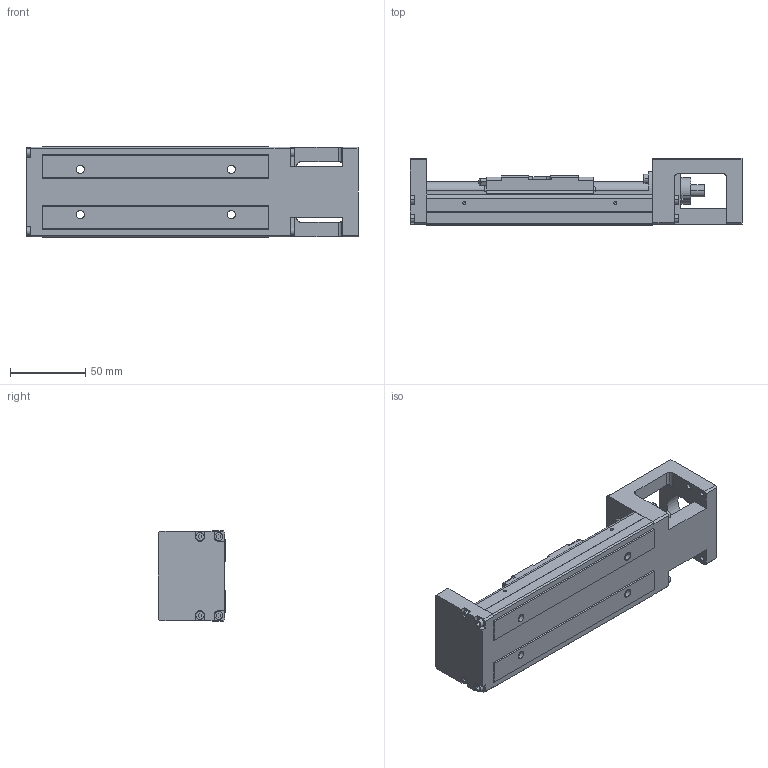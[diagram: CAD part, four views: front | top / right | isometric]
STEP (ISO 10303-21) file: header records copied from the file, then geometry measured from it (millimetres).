
FILE_DESCRIPTION (( 'STEP AP203' ), '1' );
FILE_NAME ('HKK60D5C150A1F0.stp', '2021-11-25T02:09:56', ( '' ), ( '' ), 'SwSTEP 2.0', 'SolidWorks 2018', '' );
FILE_SCHEMA (( 'CONFIG_CONTROL_DESIGN' ));
Length unit declared in the file: millimetre
Products named in the file (1): HKK60D5C150A1F0
Bounding box: 220 x 44.5 x 60 mm (x, y, z)
Volume: 286037.2 mm3; surface area: 79318.4 mm2
Topology: 2 solids, 2 shells, 515 faces, 1358 edges, 875 vertices
Faces by surface type: plane 312, cylinder 159, cone 34, torus 8, sphere 2
Entity records: 15900 total; most frequent: CARTESIAN_POINT 2934, DIRECTION 2674, ORIENTED_EDGE 2648, EDGE_CURVE 1324, LINE 954, VECTOR 954, VERTEX_POINT 875, AXIS2_PLACEMENT_3D 860
